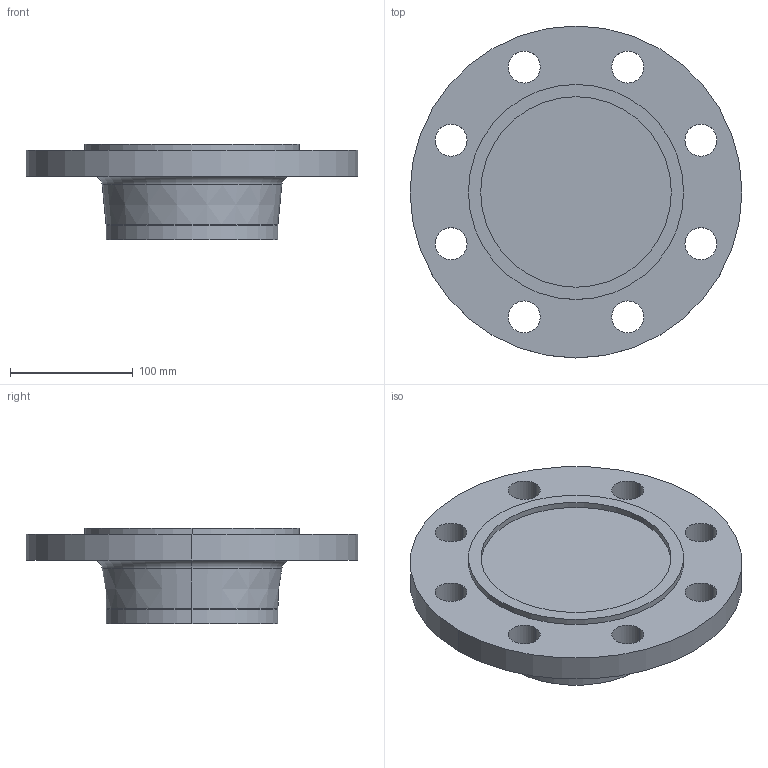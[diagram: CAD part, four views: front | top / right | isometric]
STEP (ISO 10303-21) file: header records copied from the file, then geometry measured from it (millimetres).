
FILE_DESCRIPTION (( 'STEP AP214' ), '1' );
FILE_NAME ('PN40 DN125 Type 21(ii) - Type C Face.STEP', '2019-01-02T01:14:32', ( '' ), ( '' ), 'SwSTEP 2.0', 'SolidWorks 2019', '' );
FILE_SCHEMA (( 'AUTOMOTIVE_DESIGN' ));
Length unit declared in the file: millimetre
Products named in the file (1): PN40 DN125 Type 21(ii) - Type C Face
Bounding box: 270 x 270 x 78 mm (x, y, z)
Volume: 1975798.7 mm3; surface area: 163133.5 mm2
Topology: 1 solids, 1 shells, 35 faces, 84 edges, 54 vertices
Faces by surface type: cylinder 24, plane 5, torus 4, cone 2
Entity records: 1114 total; most frequent: DIRECTION 214, CARTESIAN_POINT 174, ORIENTED_EDGE 168, AXIS2_PLACEMENT_3D 94, EDGE_CURVE 84, CIRCLE 58, VERTEX_POINT 54, EDGE_LOOP 54
